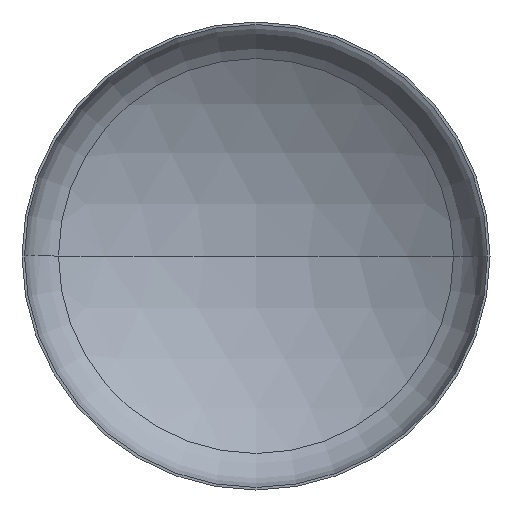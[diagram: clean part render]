
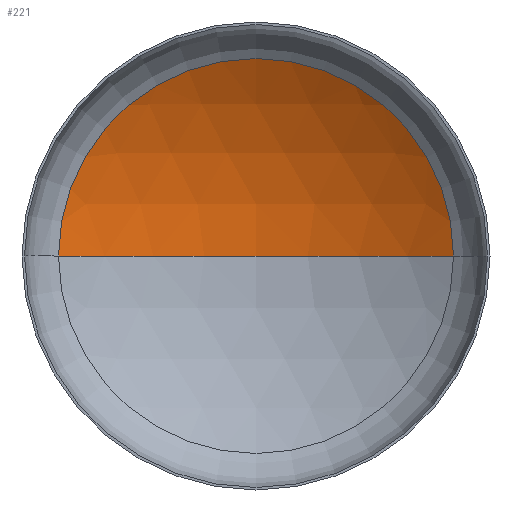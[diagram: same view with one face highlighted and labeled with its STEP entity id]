
A CAD part, front view. The second image highlights one B-rep face of the part: STEP entity #221.
In plain terms, the highlighted spherical face has radius 2080 mm.
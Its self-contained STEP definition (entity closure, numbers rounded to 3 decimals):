
#34 = AXIS2_PLACEMENT_3D ( 'NONE', #249, #144, #310 ) ;
#43 = AXIS2_PLACEMENT_3D ( 'NONE', #248, #395, #265 ) ;
#44 = DIRECTION ( 'NONE',  ( 1., 0., 0. ) ) ;
#45 = AXIS2_PLACEMENT_3D ( 'NONE', #325, #207, #355 ) ;
#48 = AXIS2_PLACEMENT_3D ( 'NONE', #394, #264, #44 ) ;
#65 = VERTEX_POINT ( 'NONE', #113 ) ;
#113 = CARTESIAN_POINT ( 'NONE',  ( 0., 697.623, 0. ) ) ;
#124 = CIRCLE ( 'NONE', #43, 2080. ) ;
#126 = ORIENTED_EDGE ( 'NONE', *, *, #152, .T. ) ;
#133 = CARTESIAN_POINT ( 'NONE',  ( 1096.952, 384.852, 0. ) ) ;
#137 = EDGE_LOOP ( 'NONE', ( #175, #155, #126 ) ) ;
#144 = DIRECTION ( 'NONE',  ( 0., 0., -1. ) ) ;
#152 = EDGE_CURVE ( 'NONE', #158, #162, #270, .T. ) ;
#155 = ORIENTED_EDGE ( 'NONE', *, *, #167, .T. ) ;
#158 = VERTEX_POINT ( 'NONE', #133 ) ;
#162 = VERTEX_POINT ( 'NONE', #181 ) ;
#167 = EDGE_CURVE ( 'NONE', #65, #158, #378, .T. ) ;
#173 = EDGE_CURVE ( 'NONE', #65, #162, #124, .T. ) ;
#175 = ORIENTED_EDGE ( 'NONE', *, *, #173, .F. ) ;
#181 = CARTESIAN_POINT ( 'NONE',  ( -1096.952, 384.852, 0. ) ) ;
#207 = DIRECTION ( 'NONE',  ( 0., 0., -1. ) ) ;
#221 = ADVANCED_FACE ( 'NONE', ( #367 ), #259, .F. ) ;
#248 = CARTESIAN_POINT ( 'NONE',  ( 0., -1382.377, 0. ) ) ;
#249 = CARTESIAN_POINT ( 'NONE',  ( 0., -1382.377, 0. ) ) ;
#259 = SPHERICAL_SURFACE ( 'NONE', #34, 2080. ) ;
#264 = DIRECTION ( 'NONE',  ( 0., -1., 0. ) ) ;
#265 = DIRECTION ( 'NONE',  ( 1., 0., 0. ) ) ;
#270 = CIRCLE ( 'NONE', #48, 1096.952 ) ;
#310 = DIRECTION ( 'NONE',  ( -1., 0., 0. ) ) ;
#325 = CARTESIAN_POINT ( 'NONE',  ( 0., -1382.377, 0. ) ) ;
#355 = DIRECTION ( 'NONE',  ( -1., 0., 0. ) ) ;
#367 = FACE_OUTER_BOUND ( 'NONE', #137, .T. ) ;
#378 = CIRCLE ( 'NONE', #45, 2080. ) ;
#394 = CARTESIAN_POINT ( 'NONE',  ( 0., 384.852, 0. ) ) ;
#395 = DIRECTION ( 'NONE',  ( 0., 0., 1. ) ) ;
